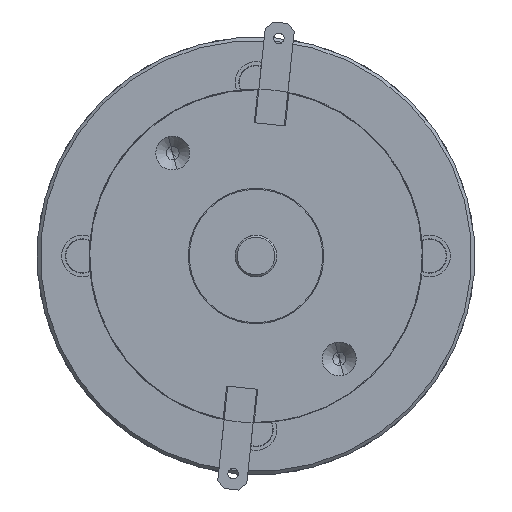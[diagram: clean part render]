
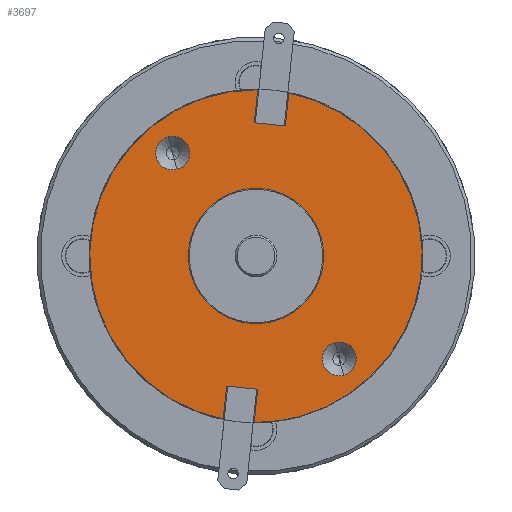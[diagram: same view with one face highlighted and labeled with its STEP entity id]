
A CAD part, left-side view. The second image highlights one B-rep face of the part: STEP entity #3697.
In plain terms, the highlighted planar face has unit normal (-1, 0, 0) as drawn and (1, 0, 0) by its records, which use the part's own axes.
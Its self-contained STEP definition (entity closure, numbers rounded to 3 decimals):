
#27 = ORIENTED_EDGE ( 'NONE', *, *, #25051, .T. ) ;
#78 = CARTESIAN_POINT ( 'NONE',  ( 82.1, 7.091, 14.287 ) ) ;
#353 = DIRECTION ( 'NONE',  ( -1., 0., 0. ) ) ;
#485 = VECTOR ( 'NONE', #16740, 1000. ) ;
#515 = DIRECTION ( 'NONE',  ( 0., -0.358, -0.934 ) ) ;
#538 = CARTESIAN_POINT ( 'NONE',  ( 82.1, 15.95, 0. ) ) ;
#631 = PLANE ( 'NONE',  #20231 ) ;
#908 = AXIS2_PLACEMENT_3D ( 'NONE', #12395, #353, #14419 ) ;
#916 = VERTEX_POINT ( 'NONE', #9963 ) ;
#1320 = VECTOR ( 'NONE', #7306, 1000. ) ;
#1363 = DIRECTION ( 'NONE',  ( 0., 0., 1. ) ) ;
#1478 = FACE_BOUND ( 'NONE', #15435, .T. ) ;
#1510 = CARTESIAN_POINT ( 'NONE',  ( 82.1, 0., 0. ) ) ;
#1870 = ORIENTED_EDGE ( 'NONE', *, *, #14921, .F. ) ;
#1941 = ORIENTED_EDGE ( 'NONE', *, *, #25250, .F. ) ;
#1997 = AXIS2_PLACEMENT_3D ( 'NONE', #6554, #6526, #6499 ) ;
#2211 = VERTEX_POINT ( 'NONE', #13333 ) ;
#3156 = DIRECTION ( 'NONE',  ( 0., 0., 1. ) ) ;
#3184 = DIRECTION ( 'NONE',  ( -1., 0., 0. ) ) ;
#3211 = CARTESIAN_POINT ( 'NONE',  ( 82.1, 5.166, -11.602 ) ) ;
#3216 = ORIENTED_EDGE ( 'NONE', *, *, #11249, .T. ) ;
#3416 = CARTESIAN_POINT ( 'NONE',  ( 82.1, 5.166, -9.977 ) ) ;
#3497 = ORIENTED_EDGE ( 'NONE', *, *, #19727, .T. ) ;
#3697 = ADVANCED_FACE ( 'NONE', ( #18736, #22176, #17501, #1478 ), #631, .F. ) ;
#3808 = VERTEX_POINT ( 'NONE', #78 ) ;
#3820 = VECTOR ( 'NONE', #515, 1000. ) ;
#4361 = CIRCLE ( 'NONE', #908, 15.95 ) ;
#5126 = CIRCLE ( 'NONE', #15309, 1.625 ) ;
#5258 = EDGE_CURVE ( 'NONE', #15414, #15785, #24637, .T. ) ;
#6344 = EDGE_LOOP ( 'NONE', ( #18308, #18359, #20279, #20582, #23049, #23351, #27, #1870, #1941 ) ) ;
#6417 = EDGE_CURVE ( 'NONE', #16068, #6645, #21215, .T. ) ;
#6499 = DIRECTION ( 'NONE',  ( 0., 0., 1. ) ) ;
#6526 = DIRECTION ( 'NONE',  ( -1., 0., 0. ) ) ;
#6554 = CARTESIAN_POINT ( 'NONE',  ( 82.1, 0., 0. ) ) ;
#6595 = CARTESIAN_POINT ( 'NONE',  ( 82.1, 0., 0. ) ) ;
#6645 = VERTEX_POINT ( 'NONE', #14919 ) ;
#6911 = VERTEX_POINT ( 'NONE', #10947 ) ;
#7140 = CARTESIAN_POINT ( 'NONE',  ( 82.1, 0., -6.5 ) ) ;
#7273 = CARTESIAN_POINT ( 'NONE',  ( 82.1, 0.648, 5.874 ) ) ;
#7306 = DIRECTION ( 'NONE',  ( 0., 0.358, 0.934 ) ) ;
#7584 = DIRECTION ( 'NONE',  ( 0., 0., 1. ) ) ;
#7671 = AXIS2_PLACEMENT_3D ( 'NONE', #6595, #20609, #8636 ) ;
#7714 = CARTESIAN_POINT ( 'NONE',  ( 82.1, -5.166, 11.602 ) ) ;
#7752 = CARTESIAN_POINT ( 'NONE',  ( 82.1, 5.952, 11.319 ) ) ;
#7940 = CARTESIAN_POINT ( 'NONE',  ( 82.1, -7.109, -14.334 ) ) ;
#7989 = DIRECTION ( 'NONE',  ( 0., -0.358, -0.934 ) ) ;
#8018 = CARTESIAN_POINT ( 'NONE',  ( 82.1, 4.29, 15.362 ) ) ;
#8227 = EDGE_LOOP ( 'NONE', ( #12741, #13381 ) ) ;
#8347 = EDGE_CURVE ( 'NONE', #18723, #8418, #5126, .T. ) ;
#8418 = VERTEX_POINT ( 'NONE', #10373 ) ;
#8556 = VERTEX_POINT ( 'NONE', #7752 ) ;
#8636 = DIRECTION ( 'NONE',  ( 0., 0., 1. ) ) ;
#8782 = EDGE_CURVE ( 'NONE', #8418, #18723, #16993, .T. ) ;
#9304 = LINE ( 'NONE', #7940, #13963 ) ;
#9743 = DIRECTION ( 'NONE',  ( 0., 0., 1. ) ) ;
#9963 = CARTESIAN_POINT ( 'NONE',  ( 82.1, 0., 6.5 ) ) ;
#10069 = EDGE_CURVE ( 'NONE', #6645, #6911, #9304, .T. ) ;
#10373 = CARTESIAN_POINT ( 'NONE',  ( 82.1, 5.166, -13.227 ) ) ;
#10837 = AXIS2_PLACEMENT_3D ( 'NONE', #1510, #25465, #7584 ) ;
#10947 = CARTESIAN_POINT ( 'NONE',  ( 82.1, -7.091, -14.287 ) ) ;
#11225 = EDGE_CURVE ( 'NONE', #2211, #15785, #12011, .T. ) ;
#11249 = EDGE_CURVE ( 'NONE', #916, #22815, #22013, .T. ) ;
#11290 = DIRECTION ( 'NONE',  ( -1., 0., 0. ) ) ;
#11807 = CARTESIAN_POINT ( 'NONE',  ( 82.1, 5.952, 11.319 ) ) ;
#11851 = DIRECTION ( 'NONE',  ( 0., 0., 1. ) ) ;
#11909 = DIRECTION ( 'NONE',  ( -1., 0., 0. ) ) ;
#12011 = LINE ( 'NONE', #7273, #1320 ) ;
#12089 = CARTESIAN_POINT ( 'NONE',  ( 82.1, 5.166, -11.602 ) ) ;
#12395 = CARTESIAN_POINT ( 'NONE',  ( 82.1, 0., 0. ) ) ;
#12485 = DIRECTION ( 'NONE',  ( 0., 0.934, -0.358 ) ) ;
#12561 = EDGE_CURVE ( 'NONE', #2211, #8556, #23154, .T. ) ;
#12741 = ORIENTED_EDGE ( 'NONE', *, *, #24753, .T. ) ;
#13295 = CARTESIAN_POINT ( 'NONE',  ( 82.1, -4.29, -15.362 ) ) ;
#13333 = CARTESIAN_POINT ( 'NONE',  ( 82.1, 3.151, 12.394 ) ) ;
#13381 = ORIENTED_EDGE ( 'NONE', *, *, #20649, .T. ) ;
#13411 = DIRECTION ( 'NONE',  ( -1., 0., 0. ) ) ;
#13801 = VECTOR ( 'NONE', #12485, 1000. ) ;
#13963 = VECTOR ( 'NONE', #7989, 1000. ) ;
#14390 = CIRCLE ( 'NONE', #7671, 6.5 ) ;
#14410 = VERTEX_POINT ( 'NONE', #25772 ) ;
#14419 = DIRECTION ( 'NONE',  ( 0., 0., 1. ) ) ;
#14675 = CARTESIAN_POINT ( 'NONE',  ( 82.1, 3.449, 4.799 ) ) ;
#14866 = CARTESIAN_POINT ( 'NONE',  ( 82.1, -3.151, -12.394 ) ) ;
#14919 = CARTESIAN_POINT ( 'NONE',  ( 82.1, -5.952, -11.319 ) ) ;
#14921 = EDGE_CURVE ( 'NONE', #3808, #17944, #25529, .T. ) ;
#15130 = DIRECTION ( 'NONE',  ( 0., 0.358, 0.934 ) ) ;
#15278 = ORIENTED_EDGE ( 'NONE', *, *, #8782, .T. ) ;
#15309 = AXIS2_PLACEMENT_3D ( 'NONE', #12089, #11909, #11851 ) ;
#15345 = CIRCLE ( 'NONE', #25406, 1.625 ) ;
#15414 = VERTEX_POINT ( 'NONE', #16780 ) ;
#15435 = EDGE_LOOP ( 'NONE', ( #3216, #3497 ) ) ;
#15593 = ORIENTED_EDGE ( 'NONE', *, *, #8347, .T. ) ;
#15785 = VERTEX_POINT ( 'NONE', #8018 ) ;
#16033 = VECTOR ( 'NONE', #15130, 1000. ) ;
#16068 = VERTEX_POINT ( 'NONE', #14866 ) ;
#16687 = CIRCLE ( 'NONE', #19235, 1.625 ) ;
#16740 = DIRECTION ( 'NONE',  ( 0., -0.934, 0.358 ) ) ;
#16780 = CARTESIAN_POINT ( 'NONE',  ( 82.1, 0., 15.95 ) ) ;
#16831 = CARTESIAN_POINT ( 'NONE',  ( 82.1, -3.151, -12.394 ) ) ;
#16993 = CIRCLE ( 'NONE', #18279, 1.625 ) ;
#17501 = FACE_OUTER_BOUND ( 'NONE', #6344, .T. ) ;
#17944 = VERTEX_POINT ( 'NONE', #13295 ) ;
#18279 = AXIS2_PLACEMENT_3D ( 'NONE', #3211, #3184, #3156 ) ;
#18308 = ORIENTED_EDGE ( 'NONE', *, *, #12561, .F. ) ;
#18359 = ORIENTED_EDGE ( 'NONE', *, *, #11225, .T. ) ;
#18723 = VERTEX_POINT ( 'NONE', #3416 ) ;
#18736 = FACE_BOUND ( 'NONE', #8227, .T. ) ;
#19235 = AXIS2_PLACEMENT_3D ( 'NONE', #23233, #11290, #25237 ) ;
#19619 = EDGE_CURVE ( 'NONE', #6911, #15414, #4361, .T. ) ;
#19727 = EDGE_CURVE ( 'NONE', #22815, #916, #14390, .T. ) ;
#20231 = AXIS2_PLACEMENT_3D ( 'NONE', #538, #25606, #22424 ) ;
#20279 = ORIENTED_EDGE ( 'NONE', *, *, #5258, .F. ) ;
#20582 = ORIENTED_EDGE ( 'NONE', *, *, #19619, .F. ) ;
#20609 = DIRECTION ( 'NONE',  ( -1., 0., 0. ) ) ;
#20649 = EDGE_CURVE ( 'NONE', #14410, #25312, #15345, .T. ) ;
#20802 = AXIS2_PLACEMENT_3D ( 'NONE', #25340, #13411, #1363 ) ;
#21215 = LINE ( 'NONE', #16831, #485 ) ;
#21370 = LINE ( 'NONE', #23026, #16033 ) ;
#21375 = EDGE_LOOP ( 'NONE', ( #15278, #15593 ) ) ;
#21706 = DIRECTION ( 'NONE',  ( -1., 0., 0. ) ) ;
#22013 = CIRCLE ( 'NONE', #1997, 6.5 ) ;
#22176 = FACE_BOUND ( 'NONE', #21375, .T. ) ;
#22301 = LINE ( 'NONE', #14675, #3820 ) ;
#22424 = DIRECTION ( 'NONE',  ( 0., 0., 1. ) ) ;
#22815 = VERTEX_POINT ( 'NONE', #7140 ) ;
#23026 = CARTESIAN_POINT ( 'NONE',  ( 82.1, 7.109, 14.334 ) ) ;
#23049 = ORIENTED_EDGE ( 'NONE', *, *, #10069, .F. ) ;
#23154 = LINE ( 'NONE', #11807, #13801 ) ;
#23233 = CARTESIAN_POINT ( 'NONE',  ( 82.1, -5.166, 11.602 ) ) ;
#23351 = ORIENTED_EDGE ( 'NONE', *, *, #6417, .F. ) ;
#24637 = CIRCLE ( 'NONE', #10837, 15.95 ) ;
#24753 = EDGE_CURVE ( 'NONE', #25312, #14410, #16687, .T. ) ;
#25051 = EDGE_CURVE ( 'NONE', #16068, #17944, #22301, .T. ) ;
#25237 = DIRECTION ( 'NONE',  ( 0., 0., 1. ) ) ;
#25250 = EDGE_CURVE ( 'NONE', #8556, #3808, #21370, .T. ) ;
#25312 = VERTEX_POINT ( 'NONE', #25372 ) ;
#25340 = CARTESIAN_POINT ( 'NONE',  ( 82.1, 0., 0. ) ) ;
#25372 = CARTESIAN_POINT ( 'NONE',  ( 82.1, -5.166, 9.977 ) ) ;
#25406 = AXIS2_PLACEMENT_3D ( 'NONE', #7714, #21706, #9743 ) ;
#25465 = DIRECTION ( 'NONE',  ( -1., 0., 0. ) ) ;
#25529 = CIRCLE ( 'NONE', #20802, 15.95 ) ;
#25606 = DIRECTION ( 'NONE',  ( -1., 0., 0. ) ) ;
#25772 = CARTESIAN_POINT ( 'NONE',  ( 82.1, -5.166, 13.227 ) ) ;
